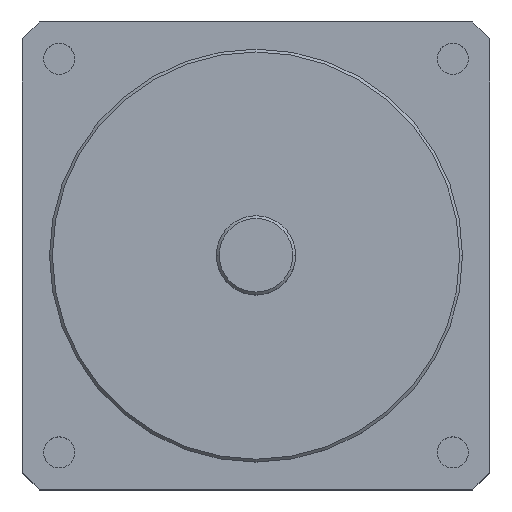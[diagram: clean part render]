
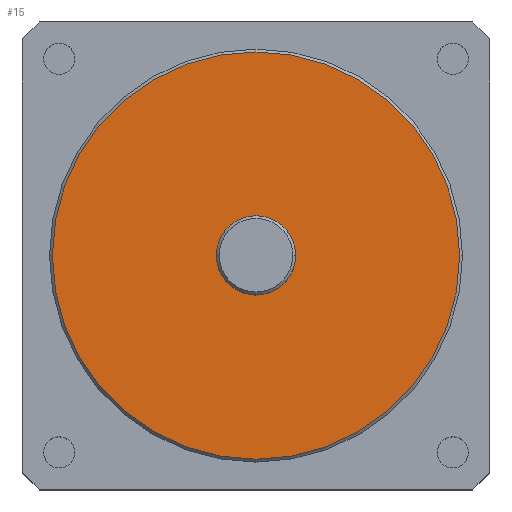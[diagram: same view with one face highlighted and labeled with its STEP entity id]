
A CAD part, top view. The second image highlights one B-rep face of the part: STEP entity #15.
In plain terms, the highlighted planar face has unit normal (0, 0, 1).
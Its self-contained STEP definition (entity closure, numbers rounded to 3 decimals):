
#15 = ADVANCED_FACE ( 'NONE', ( #1419, #1668 ), #564, .T. ) ;
#97 = DIRECTION ( 'NONE',  ( 1., 0., 0. ) ) ;
#132 = CARTESIAN_POINT ( 'NONE',  ( 41.3, 41.3, 12.5 ) ) ;
#177 = EDGE_LOOP ( 'NONE', ( #880, #811 ) ) ;
#291 = CARTESIAN_POINT ( 'NONE',  ( 77.3, 41.3, 12.5 ) ) ;
#366 = EDGE_CURVE ( 'NONE', #1408, #422, #1216, .T. ) ;
#414 = DIRECTION ( 'NONE',  ( 0., 0., 1. ) ) ;
#422 = VERTEX_POINT ( 'NONE', #1528 ) ;
#473 = AXIS2_PLACEMENT_3D ( 'NONE', #804, #414, #1869 ) ;
#487 = EDGE_CURVE ( 'NONE', #1471, #1335, #1016, .T. ) ;
#491 = DIRECTION ( 'NONE',  ( 0., 0., 1. ) ) ;
#564 = PLANE ( 'NONE',  #473 ) ;
#631 = AXIS2_PLACEMENT_3D ( 'NONE', #787, #1089, #97 ) ;
#665 = DIRECTION ( 'NONE',  ( 1., 0., 0. ) ) ;
#671 = AXIS2_PLACEMENT_3D ( 'NONE', #132, #491, #665 ) ;
#710 = CIRCLE ( 'NONE', #2116, 7. ) ;
#768 = CARTESIAN_POINT ( 'NONE',  ( 34.3, 41.3, 12.5 ) ) ;
#779 = DIRECTION ( 'NONE',  ( 1., 0., 0. ) ) ;
#787 = CARTESIAN_POINT ( 'NONE',  ( 41.3, 41.3, 12.5 ) ) ;
#790 = EDGE_CURVE ( 'NONE', #422, #1408, #710, .T. ) ;
#804 = CARTESIAN_POINT ( 'NONE',  ( 41.3, 41.3, 12.5 ) ) ;
#811 = ORIENTED_EDGE ( 'NONE', *, *, #790, .F. ) ;
#813 = ORIENTED_EDGE ( 'NONE', *, *, #487, .T. ) ;
#880 = ORIENTED_EDGE ( 'NONE', *, *, #366, .F. ) ;
#981 = CARTESIAN_POINT ( 'NONE',  ( 41.3, 41.3, 12.5 ) ) ;
#1016 = CIRCLE ( 'NONE', #671, 36. ) ;
#1055 = CARTESIAN_POINT ( 'NONE',  ( 41.3, 41.3, 12.5 ) ) ;
#1082 = ORIENTED_EDGE ( 'NONE', *, *, #1551, .T. ) ;
#1089 = DIRECTION ( 'NONE',  ( 0., 0., 1. ) ) ;
#1165 = DIRECTION ( 'NONE',  ( 0., 0., 1. ) ) ;
#1216 = CIRCLE ( 'NONE', #2008, 7. ) ;
#1235 = DIRECTION ( 'NONE',  ( 1., 0., 0. ) ) ;
#1335 = VERTEX_POINT ( 'NONE', #2144 ) ;
#1408 = VERTEX_POINT ( 'NONE', #768 ) ;
#1419 = FACE_OUTER_BOUND ( 'NONE', #1890, .T. ) ;
#1471 = VERTEX_POINT ( 'NONE', #291 ) ;
#1528 = CARTESIAN_POINT ( 'NONE',  ( 48.3, 41.3, 12.5 ) ) ;
#1551 = EDGE_CURVE ( 'NONE', #1335, #1471, #2192, .T. ) ;
#1668 = FACE_BOUND ( 'NONE', #177, .T. ) ;
#1869 = DIRECTION ( 'NONE',  ( 1., 0., 0. ) ) ;
#1890 = EDGE_LOOP ( 'NONE', ( #1082, #813 ) ) ;
#2008 = AXIS2_PLACEMENT_3D ( 'NONE', #981, #1165, #779 ) ;
#2116 = AXIS2_PLACEMENT_3D ( 'NONE', #1055, #2291, #1235 ) ;
#2144 = CARTESIAN_POINT ( 'NONE',  ( 5.3, 41.3, 12.5 ) ) ;
#2192 = CIRCLE ( 'NONE', #631, 36. ) ;
#2291 = DIRECTION ( 'NONE',  ( 0., 0., 1. ) ) ;
